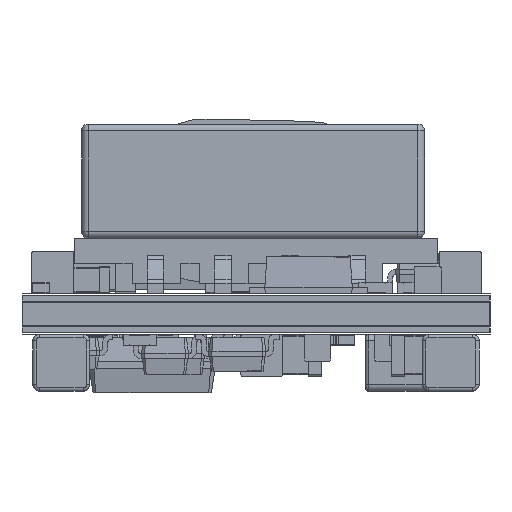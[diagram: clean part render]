
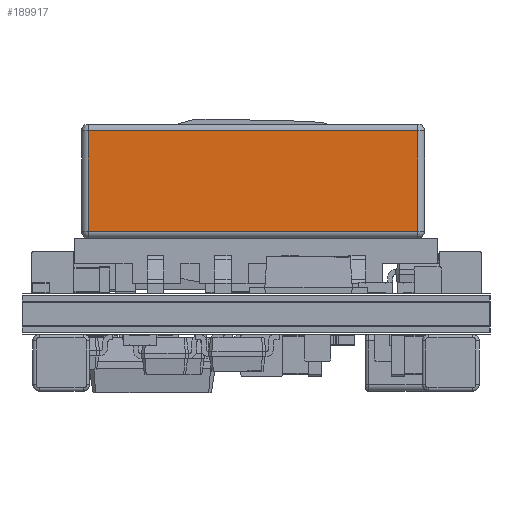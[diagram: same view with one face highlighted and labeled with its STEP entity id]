
A CAD part, left-side view. The second image highlights one B-rep face of the part: STEP entity #189917.
In plain terms, the highlighted face is a extrusion surface.
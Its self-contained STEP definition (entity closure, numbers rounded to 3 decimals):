
#189917 = ADVANCED_FACE('',(#189918),#189952,.T.);
#189918 = FACE_BOUND('',#189919,.T.);
#189919 = EDGE_LOOP('',(#189920,#189930,#189938,#189946));
#189920 = ORIENTED_EDGE('',*,*,#189921,.T.);
#189921 = EDGE_CURVE('',#189922,#189924,#189926,.T.);
#189922 = VERTEX_POINT('',#189923);
#189923 = CARTESIAN_POINT('',(3.481,10.778,
    4.85));
#189924 = VERTEX_POINT('',#189925);
#189925 = CARTESIAN_POINT('',(3.481,10.778,
    1.85));
#189926 = LINE('',#189927,#189928);
#189927 = CARTESIAN_POINT('',(3.481,10.778,
    4.85));
#189928 = VECTOR('',#189929,1.);
#189929 = DIRECTION('',(0.,0.,-1.));
#189930 = ORIENTED_EDGE('',*,*,#189931,.T.);
#189931 = EDGE_CURVE('',#189924,#189932,#189934,.T.);
#189932 = VERTEX_POINT('',#189933);
#189933 = CARTESIAN_POINT('',(3.481,0.978,
    1.85));
#189934 = LINE('',#189935,#189936);
#189935 = CARTESIAN_POINT('',(3.481,10.778,
    1.85));
#189936 = VECTOR('',#189937,1.);
#189937 = DIRECTION('',(0.,-1.,0.));
#189938 = ORIENTED_EDGE('',*,*,#189939,.T.);
#189939 = EDGE_CURVE('',#189932,#189940,#189942,.T.);
#189940 = VERTEX_POINT('',#189941);
#189941 = CARTESIAN_POINT('',(3.481,0.978,
    4.85));
#189942 = LINE('',#189943,#189944);
#189943 = CARTESIAN_POINT('',(3.481,0.978,
    1.85));
#189944 = VECTOR('',#189945,1.);
#189945 = DIRECTION('',(0.,0.,1.));
#189946 = ORIENTED_EDGE('',*,*,#189947,.T.);
#189947 = EDGE_CURVE('',#189940,#189922,#189948,.T.);
#189948 = LINE('',#189949,#189950);
#189949 = CARTESIAN_POINT('',(3.481,0.978,
    4.85));
#189950 = VECTOR('',#189951,1.);
#189951 = DIRECTION('',(0.,1.,0.));
#189952 = SURFACE_OF_LINEAR_EXTRUSION('',#189953,#189957);
#189953 = LINE('',#189954,#189955);
#189954 = CARTESIAN_POINT('',(3.481,0.978,
    1.85));
#189955 = VECTOR('',#189956,1.);
#189956 = DIRECTION('',(0.,0.,1.));
#189957 = VECTOR('',#189958,1.);
#189958 = DIRECTION('',(0.,1.,0.));
